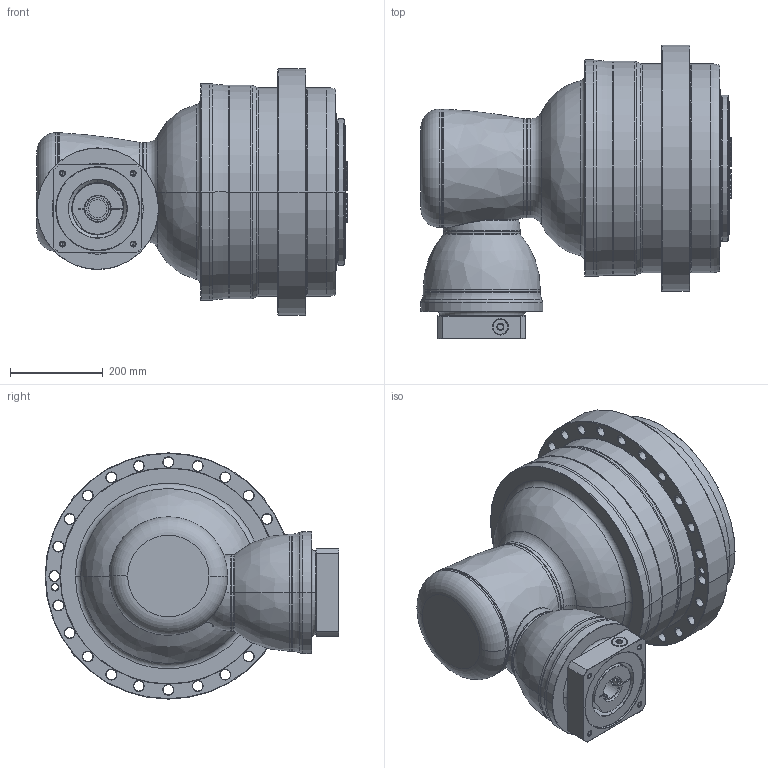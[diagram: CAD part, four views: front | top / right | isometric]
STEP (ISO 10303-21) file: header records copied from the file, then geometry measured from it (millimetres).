
FILE_DESCRIPTION((''),'2;1');
FILE_NAME('APCK450_3ST_48-P0409B10201_ASM','2018-05-15T',('d01226'),(''),'PRO/ENGINEER BY PARAMETRIC TECHNOLOGY CORPORATION, 2008410','PRO/ENGINEER BY PARAMETRIC TECHNOLOGY CORPORATION, 2008410','');
FILE_SCHEMA(('CONFIG_CONTROL_DESIGN'));
Length unit declared in the file: millimetre
Products named in the file (13): P1008700002; P1315700001; P1007701001; P1318701301; P0409B10201; P0503B00016; P0912753001; 21711426021; P1821200001; P0276201003; P03572B0103; P1222200001; APCK450_3ST_48-P0409B10201_ASM
Assembly tree (12 placements, depth 2):
  APCK450_3ST_48-P0409B10201_ASM
    P1008700002
    P1315700001
    P1007701001
    P1318701301
    P0409B10201
    P0503B00016
    P0912753001
    21711426021
    P1821200001
    P0276201003
    P03572B0103
    P1222200001
Bounding box: 667.6 x 632 x 530 mm (x, y, z)
Volume: 87986116.3 mm3; surface area: 3100472.2 mm2
Topology: 13 solids, 25 shells, 844 faces, 2043 edges, 1255 vertices
Faces by surface type: cone 266, cylinder 231, plane 163, torus 156, bspline 26, sphere 2
Entity records: 34208 total; most frequent: CARTESIAN_POINT 14004, DIRECTION 4504, ORIENTED_EDGE 4008, EDGE_CURVE 2029, AXIS2_PLACEMENT_3D 2002, VERTEX_POINT 1255, CIRCLE 1147, EDGE_LOOP 956
